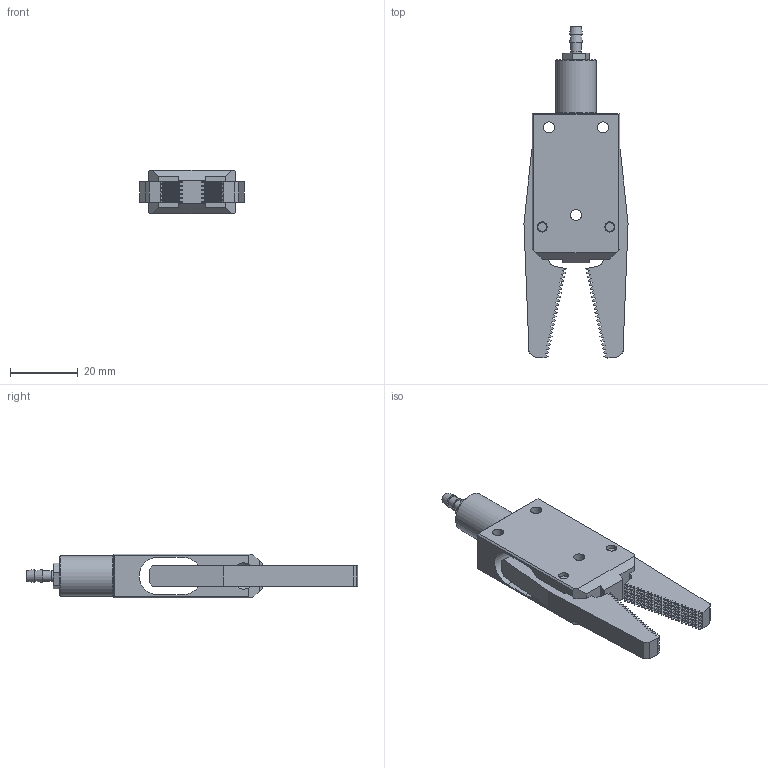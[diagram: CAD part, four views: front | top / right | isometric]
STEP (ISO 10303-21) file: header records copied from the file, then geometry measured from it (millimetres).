
FILE_DESCRIPTION(/* description */ (''),/* implementation_level */ '2;1');
FILE_NAME(/* name */ '_model1.stp',/* time_stamp */ '2023-03-08T10:01:47+08:00',/* author */ (''),/* organization */ (''),/* preprocessor_version */ 'ST-DEVELOPER v16',/* originating_system */ 'SIEMENS PLM Software NX 10.0',/* authorisation */ '');
FILE_SCHEMA (('AUTOMOTIVE_DESIGN { 1 0 10303 214 3 1 1 1 }'));
Length unit declared in the file: millimetre
Products named in the file (1): Admi115498B06ib4
Bounding box: 30.83 x 98.28 x 13 mm (x, y, z)
Volume: 15291.2 mm3; surface area: 9042.8 mm2
Topology: 1 solids, 1 shells, 1390 faces, 3029 edges, 1650 vertices
Faces by surface type: plane 1354, cylinder 22, cone 12, bspline 2
Full cylindrical faces by diameter (mm): 3 x5, 3.086 x1, 3.3 x3, 12 x1
Entity records: 35897 total; most frequent: CARTESIAN_POINT 6368, ORIENTED_EDGE 6014, DIRECTION 5825, EDGE_CURVE 3007, LINE 2919, VECTOR 2919, VERTEX_POINT 1646, AXIS2_PLACEMENT_3D 1453
